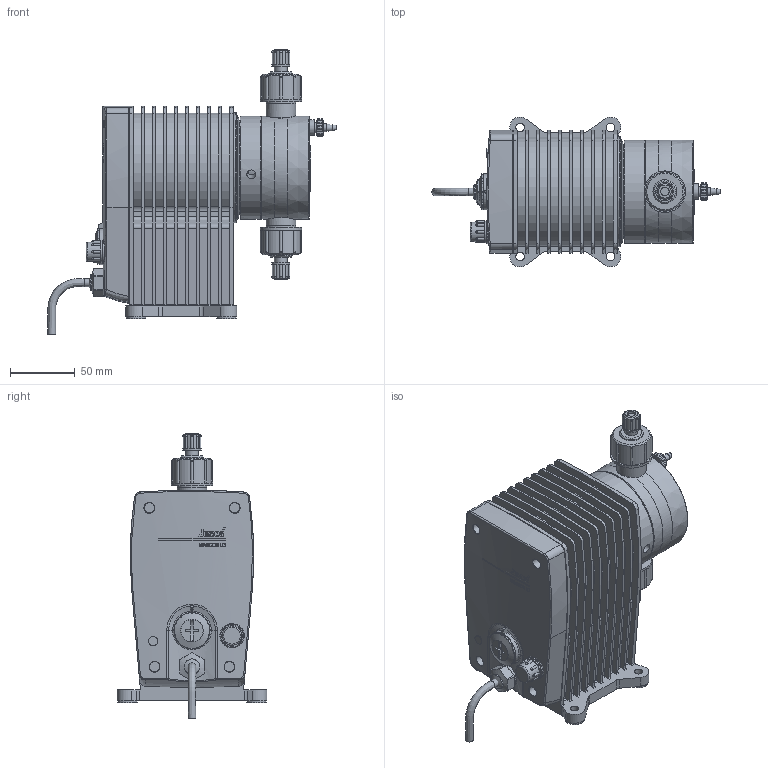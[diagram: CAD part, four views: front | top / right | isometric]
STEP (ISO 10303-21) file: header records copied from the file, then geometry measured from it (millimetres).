
FILE_DESCRIPTION (( 'STEP AP203' ), '1' );
FILE_NAME ('Magdos LB (ab 03_2017).STEP', '2018-03-26T11:19:35', ( 'USER' ), ( '' ), 'SwSTEP 2.0', 'SolidWorks 2017', '' );
FILE_SCHEMA (( 'CONFIG_CONTROL_DESIGN' ));
Length unit declared in the file: millimetre
Products named in the file (1): Magdos LB (ab 03_2017)
Bounding box: 223 x 115.97 x 220.46 mm (x, y, z)
Volume: 748072.2 mm3; surface area: 308486.3 mm2
Topology: 9 solids, 9 shells, 2442 faces, 6479 edges, 4157 vertices
Faces by surface type: plane 912, cylinder 833, torus 272, bspline 236, cone 165, sphere 24
Full cylindrical faces by diameter (mm): 2.5 x6, 3.2 x1, 3.7 x6, 5 x1, 6 x2, 6.5 x6, 6.6 x1, 7 x4, 7.7 x1, 8 x11, 8.6 x1, 9 x1, 10 x2, 11.9 x2, 12 x2, 14 x2, 14.13 x7, 15 x5, 15.2 x1, 17 x1, 18 x1, 18.4 x2, 20.4 x1, 22.911 x2, 23 x2, 25 x1, 26 x2, 32 x2, 73 x1, 80 x2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
Entity records: 95672 total; most frequent: CARTESIAN_POINT 38237, ORIENTED_EDGE 12456, DIRECTION 11504, EDGE_CURVE 6228, AXIS2_PLACEMENT_3D 4594, VERTEX_POINT 4067, EDGE_LOOP 2709, FACE_OUTER_BOUND 2530
